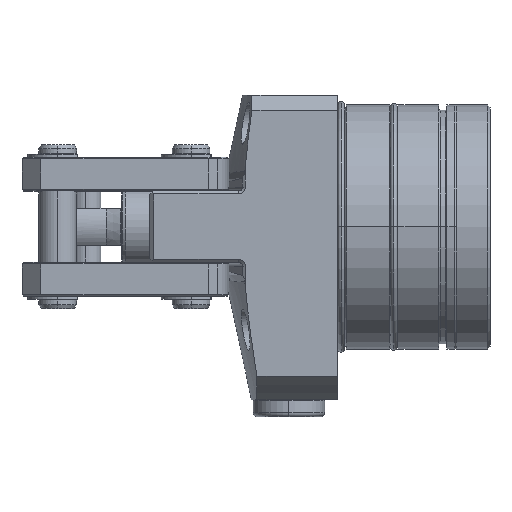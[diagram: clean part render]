
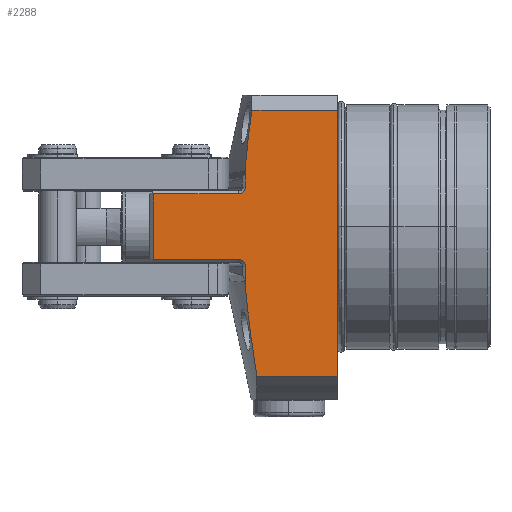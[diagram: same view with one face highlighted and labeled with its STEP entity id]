
A CAD part, top view. The second image highlights one B-rep face of the part: STEP entity #2288.
In plain terms, the highlighted planar face has unit normal (0, 0, 1).
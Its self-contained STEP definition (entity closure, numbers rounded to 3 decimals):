
#1478=B_SPLINE_CURVE_WITH_KNOTS('',3,(#12893,#12894,#12895,#12896),
 .UNSPECIFIED.,.F.,.F.,(4,4),(0.,1.),.UNSPECIFIED.);
#1479=B_SPLINE_CURVE_WITH_KNOTS('',3,(#12901,#12902,#12903,#12904,#12905,
#12906,#12907,#12908,#12909,#12910,#12911,#12912,#12913,#12914,#12915,#12916,
#12917,#12918),.UNSPECIFIED.,.F.,.F.,(4,2,2,2,2,2,2,2,4),(0.,0.125,0.25,
0.375,0.5,0.625,0.75,0.875,1.),.UNSPECIFIED.);
#1480=B_SPLINE_CURVE_WITH_KNOTS('',3,(#12926,#12927,#12928,#12929,#12930,
#12931,#12932,#12933,#12934,#12935,#12936,#12937,#12938,#12939,#12940,#12941,
#12942,#12943),.UNSPECIFIED.,.F.,.F.,(4,2,2,2,2,2,2,2,4),(0.,0.125,0.25,
0.375,0.5,0.625,0.75,0.875,1.),.UNSPECIFIED.);
#1481=B_SPLINE_CURVE_WITH_KNOTS('',3,(#12947,#12948,#12949,#12950),
 .UNSPECIFIED.,.F.,.F.,(4,4),(0.,1.),.UNSPECIFIED.);
#1949=PLANE('',#8773);
#2288=ADVANCED_FACE('',(#2838),#1949,.F.);
#2838=FACE_OUTER_BOUND('',#3259,.T.);
#3259=EDGE_LOOP('',(#5414,#5415,#5416,#5417,#5418,#5419,#5420,#5421,#5422,
#5423,#5424,#5425));
#3714=LINE('',#12899,#4081);
#3715=LINE('',#12920,#4082);
#3716=LINE('',#12922,#4083);
#3717=LINE('',#12924,#4084);
#3718=LINE('',#12945,#4085);
#3719=LINE('',#12952,#4086);
#3720=LINE('',#12954,#4087);
#3721=LINE('',#12956,#4088);
#4081=VECTOR('',#10685,1.);
#4082=VECTOR('',#10686,1.);
#4083=VECTOR('',#10687,1.);
#4084=VECTOR('',#10688,1.);
#4085=VECTOR('',#10689,1.);
#4086=VECTOR('',#10690,1.);
#4087=VECTOR('',#10691,1.);
#4088=VECTOR('',#10692,1.);
#5414=ORIENTED_EDGE('',*,*,#7342,.T.);
#5415=ORIENTED_EDGE('',*,*,#7343,.T.);
#5416=ORIENTED_EDGE('',*,*,#7344,.T.);
#5417=ORIENTED_EDGE('',*,*,#7345,.T.);
#5418=ORIENTED_EDGE('',*,*,#7346,.T.);
#5419=ORIENTED_EDGE('',*,*,#7347,.T.);
#5420=ORIENTED_EDGE('',*,*,#7348,.T.);
#5421=ORIENTED_EDGE('',*,*,#7349,.T.);
#5422=ORIENTED_EDGE('',*,*,#7350,.T.);
#5423=ORIENTED_EDGE('',*,*,#7351,.F.);
#5424=ORIENTED_EDGE('',*,*,#7352,.F.);
#5425=ORIENTED_EDGE('',*,*,#7353,.T.);
#6521=VERTEX_POINT('',#12897);
#6522=VERTEX_POINT('',#12898);
#6523=VERTEX_POINT('',#12900);
#6524=VERTEX_POINT('',#12919);
#6525=VERTEX_POINT('',#12921);
#6526=VERTEX_POINT('',#12923);
#6527=VERTEX_POINT('',#12925);
#6528=VERTEX_POINT('',#12944);
#6529=VERTEX_POINT('',#12946);
#6530=VERTEX_POINT('',#12951);
#6531=VERTEX_POINT('',#12953);
#6532=VERTEX_POINT('',#12955);
#7342=EDGE_CURVE('',#6521,#6522,#1478,.T.);
#7343=EDGE_CURVE('',#6522,#6523,#3714,.T.);
#7344=EDGE_CURVE('',#6523,#6524,#1479,.T.);
#7345=EDGE_CURVE('',#6524,#6525,#3715,.T.);
#7346=EDGE_CURVE('',#6525,#6526,#3716,.T.);
#7347=EDGE_CURVE('',#6526,#6527,#3717,.T.);
#7348=EDGE_CURVE('',#6527,#6528,#1480,.T.);
#7349=EDGE_CURVE('',#6528,#6529,#3718,.T.);
#7350=EDGE_CURVE('',#6529,#6530,#1481,.T.);
#7351=EDGE_CURVE('',#6531,#6530,#3719,.T.);
#7352=EDGE_CURVE('',#6532,#6531,#3720,.T.);
#7353=EDGE_CURVE('',#6532,#6521,#3721,.T.);
#8773=AXIS2_PLACEMENT_3D('',#12957,#10693,#10694);
#10685=DIRECTION('',(0.,-1.,0.));
#10686=DIRECTION('',(-1.,0.,0.));
#10687=DIRECTION('',(0.,-1.,0.));
#10688=DIRECTION('',(1.,0.,0.));
#10689=DIRECTION('',(0.,-1.,0.));
#10690=DIRECTION('',(-1.,0.,0.));
#10691=DIRECTION('',(0.,-1.,0.));
#10692=DIRECTION('',(-1.,0.,0.));
#10693=DIRECTION('',(0.,0.,-1.));
#10694=DIRECTION('',(0.,-1.,0.));
#12893=CARTESIAN_POINT('',(-22.837,31.,35.));
#12894=CARTESIAN_POINT('',(-23.528,26.098,35.));
#12895=CARTESIAN_POINT('',(-24.131,21.186,35.));
#12896=CARTESIAN_POINT('',(-24.573,16.255,35.));
#12897=CARTESIAN_POINT('',(-22.837,31.,35.));
#12898=CARTESIAN_POINT('',(-24.573,16.255,35.));
#12899=CARTESIAN_POINT('',(-24.573,31.,35.));
#12900=CARTESIAN_POINT('',(-24.573,10.5,35.));
#12901=CARTESIAN_POINT('',(-24.573,10.5,35.));
#12902=CARTESIAN_POINT('',(-24.573,10.382,35.));
#12903=CARTESIAN_POINT('',(-24.585,10.264,35.));
#12904=CARTESIAN_POINT('',(-24.632,10.033,35.));
#12905=CARTESIAN_POINT('',(-24.668,9.92,35.));
#12906=CARTESIAN_POINT('',(-24.761,9.702,35.));
#12907=CARTESIAN_POINT('',(-24.819,9.598,35.));
#12908=CARTESIAN_POINT('',(-24.954,9.402,35.));
#12909=CARTESIAN_POINT('',(-25.032,9.311,35.));
#12910=CARTESIAN_POINT('',(-25.205,9.144,35.));
#12911=CARTESIAN_POINT('',(-25.299,9.069,35.));
#12912=CARTESIAN_POINT('',(-25.502,8.938,35.));
#12913=CARTESIAN_POINT('',(-25.61,8.882,35.));
#12914=CARTESIAN_POINT('',(-25.836,8.792,35.));
#12915=CARTESIAN_POINT('',(-25.953,8.758,35.));
#12916=CARTESIAN_POINT('',(-26.192,8.712,35.));
#12917=CARTESIAN_POINT('',(-26.314,8.7,35.));
#12918=CARTESIAN_POINT('',(-26.436,8.7,35.));
#12919=CARTESIAN_POINT('',(-26.436,8.7,35.));
#12920=CARTESIAN_POINT('',(-49.,8.7,35.));
#12921=CARTESIAN_POINT('',(-49.,8.7,35.));
#12922=CARTESIAN_POINT('',(-49.,31.,35.));
#12923=CARTESIAN_POINT('',(-49.,-8.7,35.));
#12924=CARTESIAN_POINT('',(-26.222,-8.7,35.));
#12925=CARTESIAN_POINT('',(-26.436,-8.7,35.));
#12926=CARTESIAN_POINT('',(-26.436,-8.7,35.));
#12927=CARTESIAN_POINT('',(-26.314,-8.7,35.));
#12928=CARTESIAN_POINT('',(-26.192,-8.712,35.));
#12929=CARTESIAN_POINT('',(-25.953,-8.758,35.));
#12930=CARTESIAN_POINT('',(-25.836,-8.792,35.));
#12931=CARTESIAN_POINT('',(-25.61,-8.882,35.));
#12932=CARTESIAN_POINT('',(-25.502,-8.938,35.));
#12933=CARTESIAN_POINT('',(-25.299,-9.069,35.));
#12934=CARTESIAN_POINT('',(-25.205,-9.144,35.));
#12935=CARTESIAN_POINT('',(-25.032,-9.311,35.));
#12936=CARTESIAN_POINT('',(-24.954,-9.402,35.));
#12937=CARTESIAN_POINT('',(-24.819,-9.598,35.));
#12938=CARTESIAN_POINT('',(-24.761,-9.702,35.));
#12939=CARTESIAN_POINT('',(-24.668,-9.92,35.));
#12940=CARTESIAN_POINT('',(-24.632,-10.033,35.));
#12941=CARTESIAN_POINT('',(-24.585,-10.264,35.));
#12942=CARTESIAN_POINT('',(-24.573,-10.382,35.));
#12943=CARTESIAN_POINT('',(-24.573,-10.5,35.));
#12944=CARTESIAN_POINT('',(-24.573,-10.5,35.));
#12945=CARTESIAN_POINT('',(-24.573,-13.096,35.));
#12946=CARTESIAN_POINT('',(-24.573,-16.255,35.));
#12947=CARTESIAN_POINT('',(-24.573,-16.255,35.));
#12948=CARTESIAN_POINT('',(-23.866,-24.144,35.));
#12949=CARTESIAN_POINT('',(-22.758,-31.981,35.));
#12950=CARTESIAN_POINT('',(-21.51,-39.799,35.));
#12951=CARTESIAN_POINT('',(-21.51,-39.799,35.));
#12952=CARTESIAN_POINT('',(31.5,-39.799,35.));
#12953=CARTESIAN_POINT('',(0.,-39.799,35.));
#12954=CARTESIAN_POINT('',(0.,31.,35.));
#12955=CARTESIAN_POINT('',(0.,31.,35.));
#12956=CARTESIAN_POINT('',(31.501,31.,35.));
#12957=CARTESIAN_POINT('',(31.501,31.,35.));
